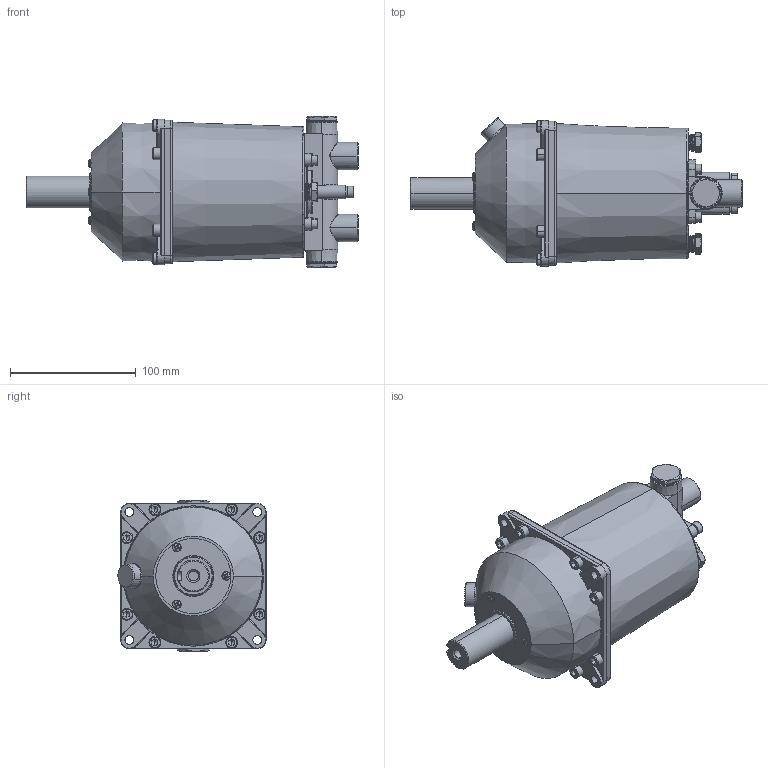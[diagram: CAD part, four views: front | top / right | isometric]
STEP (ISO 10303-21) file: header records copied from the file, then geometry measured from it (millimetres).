
FILE_DESCRIPTION (( 'STEP AP214' ), '1' );
FILE_NAME ('7004-AN.STEP', '2020-09-11T23:43:49', ( '' ), ( '' ), 'SwSTEP 2.0', 'SolidWorks 2019', '' );
FILE_SCHEMA (( 'AUTOMOTIVE_DESIGN' ));
Length unit declared in the file: inch
Products named in the file (2): 7004-AN
Bounding box: 263.79 x 117.71 x 120.17 mm (x, y, z)
Surface area: 114647.9 mm2 (no closed solid volume)
Topology: 0 solids, 39 shells, 763 faces, 2207 edges, 1412 vertices
Faces by surface type: plane 248, cone 188, cylinder 187, torus 81, bspline 47, sphere 12
Entity records: 46688 total; most frequent: CARTESIAN_POINT 17552, DIRECTION 4077, ORIENTED_EDGE 3744, EDGE_CURVE 2171, AXIS2_PLACEMENT_3D 1627, VERTEX_POINT 1412, CIRCLE 909, EDGE_LOOP 849
